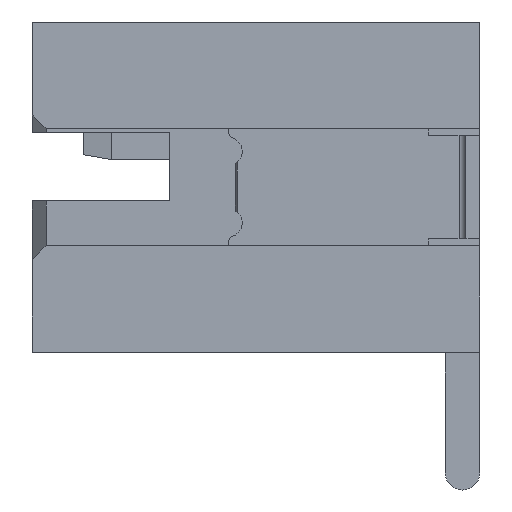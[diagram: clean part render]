
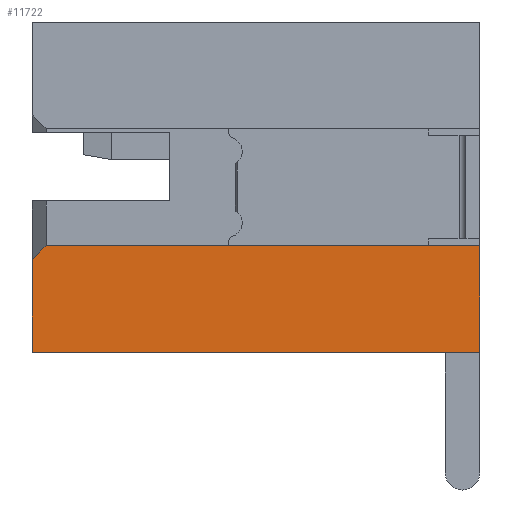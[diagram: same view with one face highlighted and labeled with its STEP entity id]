
A CAD part, left-side view. The second image highlights one B-rep face of the part: STEP entity #11722.
In plain terms, the highlighted planar face has unit normal (-1, 0, 0).
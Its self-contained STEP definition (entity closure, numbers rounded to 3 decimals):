
#145=DIRECTION('',(0.,-1.,0.));
#146=VECTOR('',#145,6.5);
#147=CARTESIAN_POINT('',(-5.,6.,-4.8));
#148=LINE('',#147,#146);
#765=DIRECTION('',(0.,0.,-1.));
#766=VECTOR('',#765,1.35);
#767=CARTESIAN_POINT('',(-5.,6.,-3.45));
#768=LINE('',#767,#766);
#1657=DIRECTION('',(0.,0.,1.));
#1658=VECTOR('',#1657,1.55);
#1659=CARTESIAN_POINT('',(-5.,-0.5,-4.8));
#1660=LINE('',#1659,#1658);
#1689=DIRECTION('',(0.,-1.,0.));
#1690=VECTOR('',#1689,6.3);
#1691=CARTESIAN_POINT('',(-5.,5.8,-3.25));
#1692=LINE('',#1691,#1690);
#1693=DIRECTION('',(0.,-0.707,0.707));
#1694=VECTOR('',#1693,0.283);
#1695=CARTESIAN_POINT('',(-5.,6.,-3.45));
#1696=LINE('',#1695,#1694);
#7593=CARTESIAN_POINT('',(-5.,6.,-3.45));
#7594=VERTEX_POINT('',#7593);
#7595=CARTESIAN_POINT('',(-5.,6.,-4.8));
#7596=VERTEX_POINT('',#7595);
#7597=CARTESIAN_POINT('',(-5.,-0.5,-4.8));
#7598=VERTEX_POINT('',#7597);
#7661=CARTESIAN_POINT('',(-5.,5.8,-3.25));
#7662=CARTESIAN_POINT('',(-5.,-0.5,-3.25));
#7663=VERTEX_POINT('',#7661);
#7664=VERTEX_POINT('',#7662);
#11708=CARTESIAN_POINT('',(-5.,2.75,-4.025));
#11709=DIRECTION('',(1.,0.,0.));
#11710=DIRECTION('',(0.,-1.,0.));
#11711=AXIS2_PLACEMENT_3D('',#11708,#11709,#11710);
#11712=PLANE('',#11711);
#11714=ORIENTED_EDGE('',*,*,#11713,.T.);
#11715=ORIENTED_EDGE('',*,*,#11686,.F.);
#11716=ORIENTED_EDGE('',*,*,#9489,.F.);
#11717=ORIENTED_EDGE('',*,*,#10471,.F.);
#11719=ORIENTED_EDGE('',*,*,#11718,.T.);
#11720=EDGE_LOOP('',(#11714,#11715,#11716,#11717,#11719));
#11721=FACE_OUTER_BOUND('',#11720,.F.);
#11722=ADVANCED_FACE('',(#11721),#11712,.F.);
#9489=EDGE_CURVE('',#7596,#7598,#148,.T.);
#10471=EDGE_CURVE('',#7594,#7596,#768,.T.);
#11686=EDGE_CURVE('',#7598,#7664,#1660,.T.);
#11713=EDGE_CURVE('',#7663,#7664,#1692,.T.);
#11718=EDGE_CURVE('',#7594,#7663,#1696,.T.);
